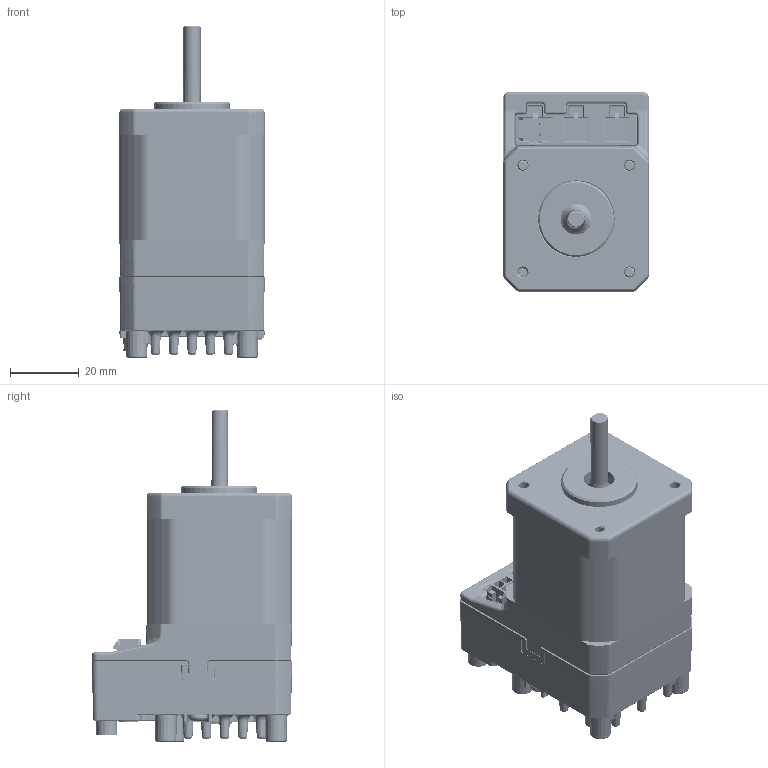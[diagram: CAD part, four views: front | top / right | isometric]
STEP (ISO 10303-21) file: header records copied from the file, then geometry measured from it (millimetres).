
FILE_DESCRIPTION (( 'STEP AP214' ), '1' );
FILE_NAME ('NEMA 17 CPM-EC 5mm.step', '2026-08-11T17:33:33', ( '' ), ( '' ), 'SwSTEP 2.0', 'SolidWorks 2020', '' );
FILE_SCHEMA (( 'AUTOMOTIVE_DESIGN' ));
Length unit declared in the file: inch
Products named in the file (1): NEMA 17 CPM-EC 5mm
Bounding box: 42.21 x 58.06 x 96.38 mm (x, y, z)
Volume: 63139.4 mm3; surface area: 67304.2 mm2
Topology: 20 solids, 20 shells, 5177 faces, 13703 edges, 8435 vertices
Faces by surface type: plane 1947, cylinder 1791, bspline 692, torus 382, cone 261, sphere 104
Entity records: 246539 total; most frequent: CARTESIAN_POINT 59101, ORIENTED_EDGE 27026, DIRECTION 23142, EDGE_CURVE 13513, VERTEX_POINT 8431, AXIS2_PLACEMENT_3D 8100, LINE 6942, VECTOR 6942
